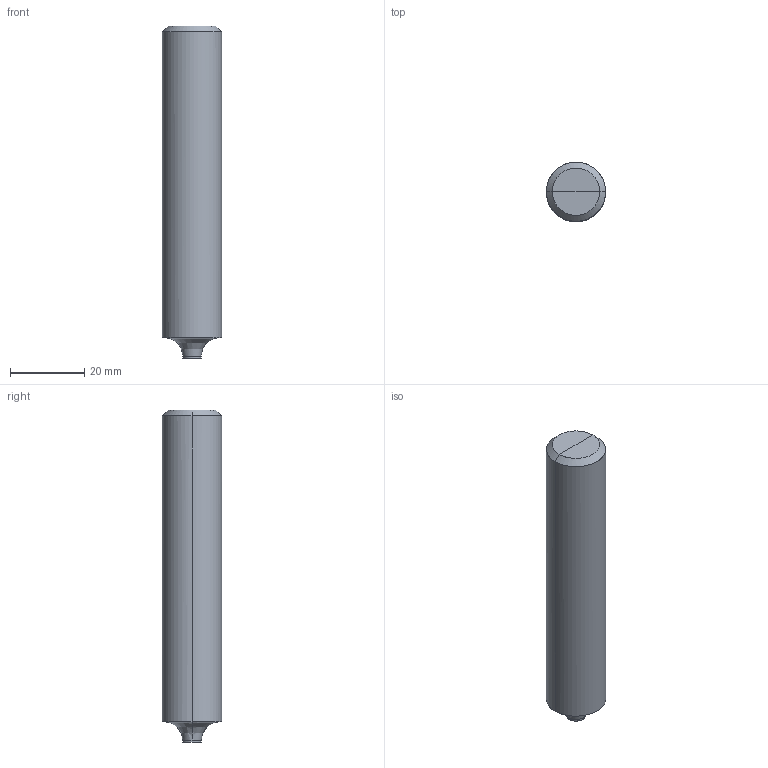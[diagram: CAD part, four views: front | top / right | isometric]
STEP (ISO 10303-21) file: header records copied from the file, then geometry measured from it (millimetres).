
FILE_DESCRIPTION(/* description */ (''),/* implementation_level */ '2;1');
FILE_NAME(/*name*/ '4011-16F-5.0R',/*time_stamp*/'2021-7-21T11:57:48',/*author*/ ('ISBE GmbH'),/*organization*/ ('ISBE GmbH'),/*preprocessor_version*/ 'STEP IO v1.0',/*originating_system*/ '',/*authorisation*/ '');
FILE_SCHEMA (('AUTOMOTIVE_DESIGN'));
Length unit declared in the file: millimetre
Products named in the file (1): Document
Bounding box: 16 x 15.98 x 89.5 mm (x, y, z)
Surface area: 5046.2 mm2 (no closed solid volume)
Topology: 0 solids, 18 shells, 18 faces, 76 edges, 72 vertices
Faces by surface type: bspline 18
Entity records: 587 total; most frequent: CARTESIAN_POINT 254, VERTEX_POINT 64, EDGE_CURVE 64, ORIENTED_EDGE 64, EDGE_LOOP 18, FACE_OUTER_BOUND 18, ADVANCED_FACE 18, DIRECTION 16
